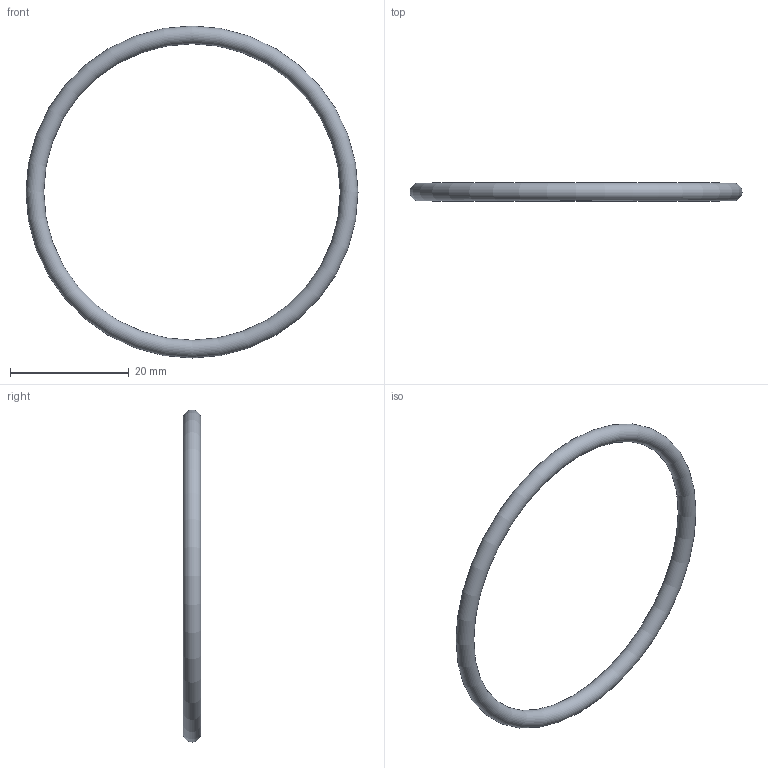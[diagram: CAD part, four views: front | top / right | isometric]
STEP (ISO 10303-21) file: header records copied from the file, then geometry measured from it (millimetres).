
FILE_DESCRIPTION( ( 'STEP AP203' ), '1' );
FILE_NAME( 'C:/Temp/Ganter_Step_05_03_2020/data/3_5/or638/O-Ring OR638-50.00-3.00-70.stp', '2020-03-12T13:44:31', ( 'License CC BY-ND 4.0' ), ( 'CADENAS' ), ' ', 'PARTsolutions', ' ' );
FILE_SCHEMA( ( 'CONFIG_CONTROL_DESIGN' ) );
Length unit declared in the file: millimetre
Products named in the file (1): _O-Ring OR638-50.00-3.00-70
Bounding box: 56 x 3 x 56 mm (x, y, z)
Volume: 1177 mm3; surface area: 1569.3 mm2
Topology: 1 solids, 1 shells, 1 faces, 2 edges, 1 vertices
Faces by surface type: torus 1
Entity records: 62 total; most frequent: CC_DESIGN_PERSON_AND_ORGANIZATION_ASSIGNMENT 5, PERSON_AND_ORGANIZATION_ROLE 4, DIRECTION 4, CARTESIAN_POINT 3, DATE_TIME_ROLE 2, CC_DESIGN_DATE_AND_TIME_ASSIGNMENT 2, AXIS2_PLACEMENT_3D 2, DIMENSIONAL_EXPONENTS 2
